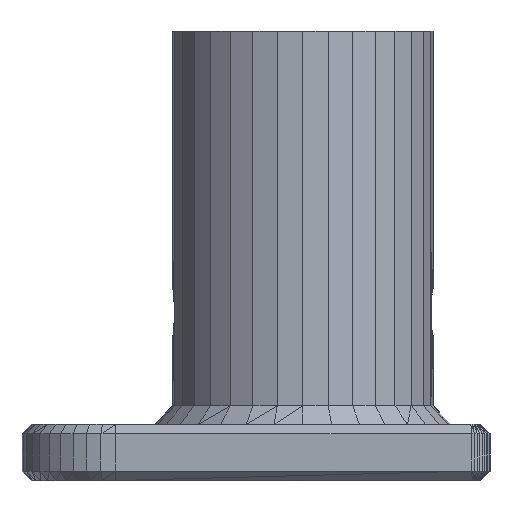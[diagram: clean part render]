
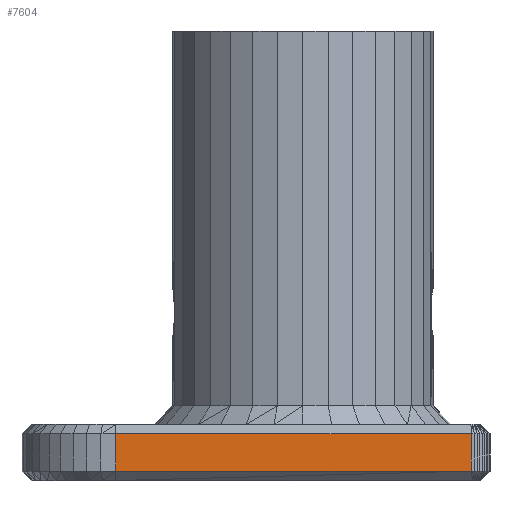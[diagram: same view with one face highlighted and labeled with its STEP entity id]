
A CAD part, front view. The second image highlights one B-rep face of the part: STEP entity #7604.
In plain terms, the highlighted planar face has unit normal (0, -1, 0).
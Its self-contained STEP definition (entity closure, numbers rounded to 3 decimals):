
#7528=CARTESIAN_POINT('',(-7.505,-10.005,0.507));
#7529=VERTEX_POINT('',#7528);
#7536=CARTESIAN_POINT('',(-7.505,-10.005,2.5));
#7537=VERTEX_POINT('',#7536);
#7538=CARTESIAN_POINT('',(-7.505,-10.005,2.5));
#7539=DIRECTION('',(0.,0.,-1.));
#7540=VECTOR('',#7539,1.993);
#7541=LINE('',#7538,#7540);
#7542=EDGE_CURVE('',#7537,#7529,#7541,.T.);
#7574=CARTESIAN_POINT('',(1.528,-10.005,1.976));
#7575=DIRECTION('',(0.,-1.,0.));
#7576=DIRECTION('',(0.,0.,-1.));
#7577=AXIS2_PLACEMENT_3D('',#7574,#7575,#7576);
#7578=PLANE('',#7577);
#7579=CARTESIAN_POINT('',(11.505,-10.005,2.5));
#7580=VERTEX_POINT('',#7579);
#7581=CARTESIAN_POINT('',(-7.505,-10.005,2.5));
#7582=DIRECTION('',(1.,-0.,-0.));
#7583=VECTOR('',#7582,19.01);
#7584=LINE('',#7581,#7583);
#7585=EDGE_CURVE('',#7537,#7580,#7584,.T.);
#7586=ORIENTED_EDGE('',*,*,#7585,.F.);
#7587=ORIENTED_EDGE('',*,*,#7542,.T.);
#7588=CARTESIAN_POINT('',(11.505,-10.005,0.506));
#7589=VERTEX_POINT('',#7588);
#7590=CARTESIAN_POINT('',(11.505,-10.005,0.506));
#7591=DIRECTION('',(-1.,0.,0.));
#7592=VECTOR('',#7591,19.01);
#7593=LINE('',#7590,#7592);
#7594=EDGE_CURVE('',#7589,#7529,#7593,.T.);
#7595=ORIENTED_EDGE('',*,*,#7594,.F.);
#7596=CARTESIAN_POINT('',(11.505,-10.005,0.506));
#7597=DIRECTION('',(-0.,-0.,1.));
#7598=VECTOR('',#7597,1.994);
#7599=LINE('',#7596,#7598);
#7600=EDGE_CURVE('',#7589,#7580,#7599,.T.);
#7601=ORIENTED_EDGE('',*,*,#7600,.T.);
#7602=EDGE_LOOP('',(#7586,#7587,#7595,#7601));
#7603=FACE_BOUND('',#7602,.T.);
#7604=ADVANCED_FACE('',(#7603),#7578,.T.);
